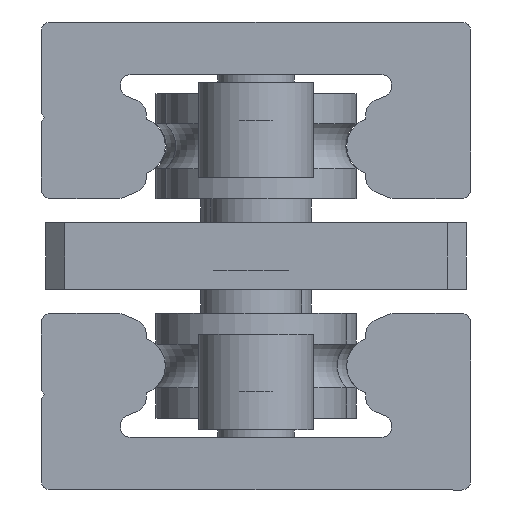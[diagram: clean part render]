
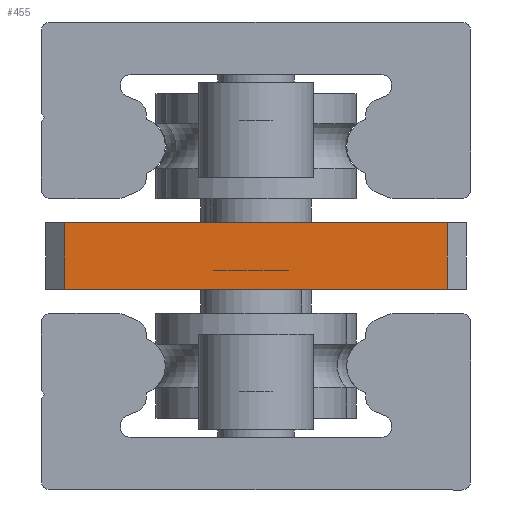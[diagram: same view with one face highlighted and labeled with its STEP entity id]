
A CAD part, left-side view. The second image highlights one B-rep face of the part: STEP entity #455.
In plain terms, the highlighted planar face has unit normal (-1, 0, 0).
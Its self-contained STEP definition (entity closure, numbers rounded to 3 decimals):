
#304 = LINE ( 'NONE', #8656, #6546 ) ;
#455 = ADVANCED_FACE ( 'NONE', ( #1979 ), #4756, .F. ) ;
#472 = CARTESIAN_POINT ( 'NONE',  ( 0., -20., 8. ) ) ;
#551 = DIRECTION ( 'NONE',  ( 0., 0., 1. ) ) ;
#749 = EDGE_CURVE ( 'NONE', #5010, #2939, #5303, .T. ) ;
#755 = ORIENTED_EDGE ( 'NONE', *, *, #5982, .F. ) ;
#1294 = CARTESIAN_POINT ( 'NONE',  ( 0., 0., 11.5 ) ) ;
#1464 = VECTOR ( 'NONE', #551, 1000. ) ;
#1800 = VERTEX_POINT ( 'NONE', #8966 ) ;
#1808 = ORIENTED_EDGE ( 'NONE', *, *, #4590, .F. ) ;
#1979 = FACE_OUTER_BOUND ( 'NONE', #5085, .T. ) ;
#2515 = CARTESIAN_POINT ( 'NONE',  ( 0., 20., 13.25 ) ) ;
#2565 = LINE ( 'NONE', #5362, #9021 ) ;
#2939 = VERTEX_POINT ( 'NONE', #3589 ) ;
#3090 = ORIENTED_EDGE ( 'NONE', *, *, #749, .F. ) ;
#3297 = DIRECTION ( 'NONE',  ( 1., 0., 0. ) ) ;
#3589 = CARTESIAN_POINT ( 'NONE',  ( 0., 20., 15. ) ) ;
#4233 = AXIS2_PLACEMENT_3D ( 'NONE', #1294, #3297, #6070 ) ;
#4590 = EDGE_CURVE ( 'NONE', #2939, #1800, #304, .T. ) ;
#4756 = PLANE ( 'NONE',  #4233 ) ;
#5010 = VERTEX_POINT ( 'NONE', #8409 ) ;
#5085 = EDGE_LOOP ( 'NONE', ( #3090, #755, #8625, #1808 ) ) ;
#5303 = LINE ( 'NONE', #2515, #1464 ) ;
#5362 = CARTESIAN_POINT ( 'NONE',  ( 0., -22., 8. ) ) ;
#5480 = EDGE_CURVE ( 'NONE', #1800, #7812, #7218, .T. ) ;
#5793 = CARTESIAN_POINT ( 'NONE',  ( 0., -20., 9.75 ) ) ;
#5863 = DIRECTION ( 'NONE',  ( 0., -1., 0. ) ) ;
#5982 = EDGE_CURVE ( 'NONE', #7812, #5010, #2565, .T. ) ;
#6070 = DIRECTION ( 'NONE',  ( 0., 0., -1. ) ) ;
#6167 = DIRECTION ( 'NONE',  ( 0., 1., 0. ) ) ;
#6546 = VECTOR ( 'NONE', #5863, 1000. ) ;
#7218 = LINE ( 'NONE', #5793, #9010 ) ;
#7812 = VERTEX_POINT ( 'NONE', #472 ) ;
#8409 = CARTESIAN_POINT ( 'NONE',  ( 0., 20., 8. ) ) ;
#8625 = ORIENTED_EDGE ( 'NONE', *, *, #5480, .F. ) ;
#8656 = CARTESIAN_POINT ( 'NONE',  ( 0., 22., 15. ) ) ;
#8800 = DIRECTION ( 'NONE',  ( 0., 0., -1. ) ) ;
#8966 = CARTESIAN_POINT ( 'NONE',  ( 0., -20., 15. ) ) ;
#9010 = VECTOR ( 'NONE', #8800, 1000. ) ;
#9021 = VECTOR ( 'NONE', #6167, 1000. ) ;
